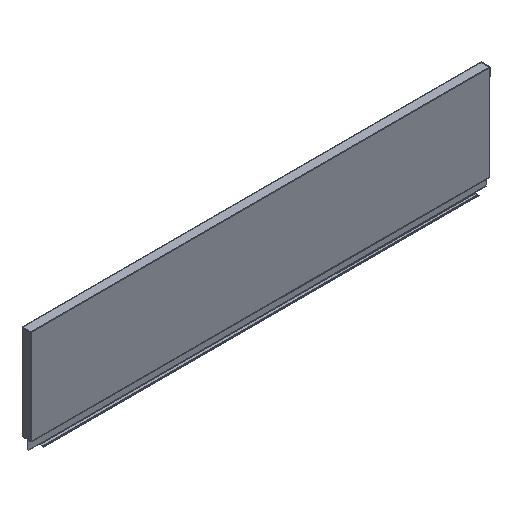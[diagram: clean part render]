
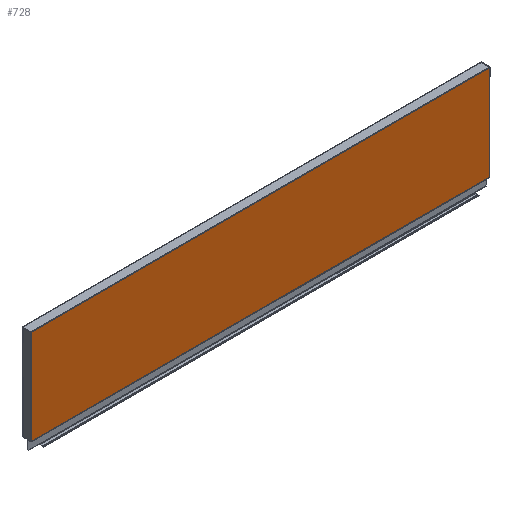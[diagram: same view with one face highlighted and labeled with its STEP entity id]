
A CAD part, isometric view. The second image highlights one B-rep face of the part: STEP entity #728.
In plain terms, the highlighted planar face has unit normal (0, -1, 0).
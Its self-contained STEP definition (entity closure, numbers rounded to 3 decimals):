
#50 = VERTEX_POINT ( 'NONE', #453 ) ;
#80 = VERTEX_POINT ( 'NONE', #446 ) ;
#91 = VERTEX_POINT ( 'NONE', #444 ) ;
#200 = VERTEX_POINT ( 'NONE', #423 ) ;
#228 = VERTEX_POINT ( 'NONE', #418 ) ;
#323 = CARTESIAN_POINT ( 'NONE',  ( -404., -6., 184. ) ) ;
#345 = CARTESIAN_POINT ( 'NONE',  ( 403.5, -6., 17.5 ) ) ;
#355 = DIRECTION ( 'NONE',  ( 0., 0., -1. ) ) ;
#358 = CARTESIAN_POINT ( 'NONE',  ( -403.5, -6., 17.5 ) ) ;
#372 = CARTESIAN_POINT ( 'NONE',  ( -404., -6., 183.5 ) ) ;
#379 = CARTESIAN_POINT ( 'NONE',  ( 404., -6., 184. ) ) ;
#386 = CARTESIAN_POINT ( 'NONE',  ( -403.5, -6., 17.5 ) ) ;
#418 = CARTESIAN_POINT ( 'NONE',  ( 404., -6., 17.5 ) ) ;
#423 = CARTESIAN_POINT ( 'NONE',  ( 403.5, -6., 17. ) ) ;
#444 = CARTESIAN_POINT ( 'NONE',  ( 404., -6., 183.5 ) ) ;
#446 = CARTESIAN_POINT ( 'NONE',  ( -403.5, -6., 17. ) ) ;
#453 = CARTESIAN_POINT ( 'NONE',  ( -404., -6., 17.5 ) ) ;
#475 = DIRECTION ( 'NONE',  ( 0., 0., -1. ) ) ;
#479 = VERTEX_POINT ( 'NONE', #386 ) ;
#487 = VERTEX_POINT ( 'NONE', #379 ) ;
#486 = CARTESIAN_POINT ( 'NONE',  ( -404., -6., 202.385 ) ) ;
#494 = VERTEX_POINT ( 'NONE', #372 ) ;
#495 = DIRECTION ( 'NONE',  ( 1., 0., 0. ) ) ;
#503 = CARTESIAN_POINT ( 'NONE',  ( -405., -6., 17.5 ) ) ;
#532 = VERTEX_POINT ( 'NONE', #345 ) ;
#549 = VERTEX_POINT ( 'NONE', #323 ) ;
#604 = CARTESIAN_POINT ( 'NONE',  ( -405., -6., 17. ) ) ;
#605 = DIRECTION ( 'NONE',  ( 1., 0., 0. ) ) ;
#606 = CARTESIAN_POINT ( 'NONE',  ( 403.5, -6., 15.3 ) ) ;
#607 = DIRECTION ( 'NONE',  ( 0., 0., 1. ) ) ;
#608 = CARTESIAN_POINT ( 'NONE',  ( 403.5, -6., 17.5 ) ) ;
#609 = DIRECTION ( 'NONE',  ( 1., 0., 0. ) ) ;
#610 = CARTESIAN_POINT ( 'NONE',  ( 404., -6., 202.385 ) ) ;
#611 = DIRECTION ( 'NONE',  ( 0., 0., -1. ) ) ;
#612 = CARTESIAN_POINT ( 'NONE',  ( 404., -6., 202.385 ) ) ;
#613 = DIRECTION ( 'NONE',  ( 0., 0., -1. ) ) ;
#614 = CARTESIAN_POINT ( 'NONE',  ( -405., -6., 184. ) ) ;
#615 = DIRECTION ( 'NONE',  ( 1., 0., 0. ) ) ;
#616 = CARTESIAN_POINT ( 'NONE',  ( -404., -6., 202.385 ) ) ;
#617 = DIRECTION ( 'NONE',  ( 0., 0., -1. ) ) ;
#728 = ADVANCED_FACE ( 'NONE', ( #2070 ), #1217, .T. ) ;
#879 = EDGE_LOOP ( 'NONE', ( #1948, #1947, #1946, #1945, #1944, #1943, #1942, #1941, #1940, #1939 ) ) ;
#1211 = DIRECTION ( 'NONE',  ( 1., 0., 0. ) ) ;
#1212 = DIRECTION ( 'NONE',  ( 0., -1., 0. ) ) ;
#1215 = CARTESIAN_POINT ( 'NONE',  ( -405., -6., 17. ) ) ;
#1217 = PLANE ( 'NONE',  #1630 ) ;
#1541 = EDGE_CURVE ( 'NONE', #50, #479, #2366, .T. ) ;
#1542 = EDGE_CURVE ( 'NONE', #494, #50, #2368, .T. ) ;
#1544 = EDGE_CURVE ( 'NONE', #479, #80, #2370, .T. ) ;
#1630 = AXIS2_PLACEMENT_3D ( 'NONE', #1215, #1212, #1211 ) ;
#1939 = ORIENTED_EDGE ( 'NONE', *, *, #2476, .T. ) ;
#1940 = ORIENTED_EDGE ( 'NONE', *, *, #2475, .F. ) ;
#1941 = ORIENTED_EDGE ( 'NONE', *, *, #2474, .F. ) ;
#1942 = ORIENTED_EDGE ( 'NONE', *, *, #2473, .F. ) ;
#1943 = ORIENTED_EDGE ( 'NONE', *, *, #2472, .T. ) ;
#1944 = ORIENTED_EDGE ( 'NONE', *, *, #2471, .T. ) ;
#1945 = ORIENTED_EDGE ( 'NONE', *, *, #2470, .T. ) ;
#1946 = ORIENTED_EDGE ( 'NONE', *, *, #1544, .T. ) ;
#1947 = ORIENTED_EDGE ( 'NONE', *, *, #1541, .T. ) ;
#1948 = ORIENTED_EDGE ( 'NONE', *, *, #1542, .T. ) ;
#2070 = FACE_OUTER_BOUND ( 'NONE', #879, .T. ) ;
#2366 = LINE ( 'NONE', #503, #2367 ) ;
#2367 = VECTOR ( 'NONE', #495, 1000. ) ;
#2368 = LINE ( 'NONE', #486, #2369 ) ;
#2369 = VECTOR ( 'NONE', #475, 1000. ) ;
#2370 = LINE ( 'NONE', #358, #2372 ) ;
#2372 = VECTOR ( 'NONE', #355, 1000. ) ;
#2415 = LINE ( 'NONE', #604, #2416 ) ;
#2416 = VECTOR ( 'NONE', #605, 1000. ) ;
#2417 = LINE ( 'NONE', #606, #2418 ) ;
#2418 = VECTOR ( 'NONE', #607, 1000. ) ;
#2419 = LINE ( 'NONE', #608, #2420 ) ;
#2420 = VECTOR ( 'NONE', #609, 1000. ) ;
#2421 = LINE ( 'NONE', #610, #2422 ) ;
#2422 = VECTOR ( 'NONE', #611, 1000. ) ;
#2423 = LINE ( 'NONE', #612, #2424 ) ;
#2424 = VECTOR ( 'NONE', #613, 1000. ) ;
#2425 = LINE ( 'NONE', #614, #2426 ) ;
#2426 = VECTOR ( 'NONE', #615, 1000. ) ;
#2427 = LINE ( 'NONE', #616, #2428 ) ;
#2428 = VECTOR ( 'NONE', #617, 1000. ) ;
#2470 = EDGE_CURVE ( 'NONE', #80, #200, #2415, .T. ) ;
#2471 = EDGE_CURVE ( 'NONE', #200, #532, #2417, .T. ) ;
#2472 = EDGE_CURVE ( 'NONE', #532, #228, #2419, .T. ) ;
#2473 = EDGE_CURVE ( 'NONE', #91, #228, #2421, .T. ) ;
#2474 = EDGE_CURVE ( 'NONE', #487, #91, #2423, .T. ) ;
#2475 = EDGE_CURVE ( 'NONE', #549, #487, #2425, .T. ) ;
#2476 = EDGE_CURVE ( 'NONE', #549, #494, #2427, .T. ) ;
